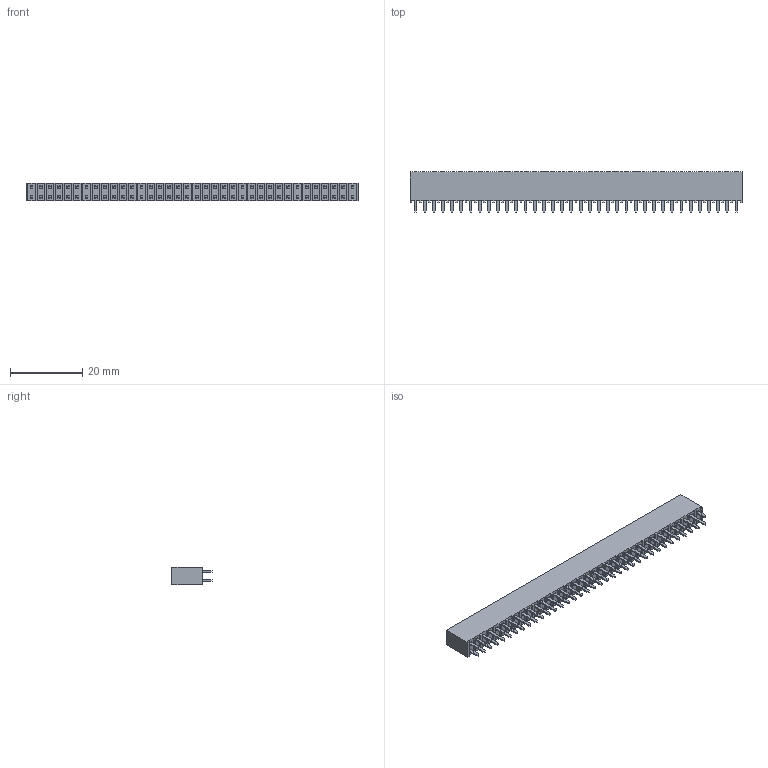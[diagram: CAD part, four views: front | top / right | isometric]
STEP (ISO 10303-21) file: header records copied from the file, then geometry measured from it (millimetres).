
FILE_DESCRIPTION(/* description */ ('STEP AP214'),/* implementation_level */ '2;1');
FILE_NAME(/* name */ 'SSW-136-21-F-D',/* time_stamp */ '2025-01-24T02:11:03+01:00',/* author */ ('License CC BY-ND 4.0'),/* organization */ ('CADENAS'),/* preprocessor_version */ 'ST-DEVELOPER v19.3',/* originating_system */ 'PARTsolutions',/* authorisation */ ' ');
FILE_SCHEMA (('AUTOMOTIVE_DESIGN {1 0 10303 214 3 1 1}'));
Length unit declared in the file: inch
Products named in the file (3): SSW-136-21-F-D; T1SSW-136-21-F-D; P2SSW-136-21-F-D
Assembly tree (2 placements, depth 2):
  SSW-136-21-F-D
    T1SSW-136-21-F-D
    P2SSW-136-21-F-D
Bounding box: 91.95 x 11.15 x 4.95 mm (x, y, z)
Volume: 3454.9 mm3; surface area: 5671.8 mm2
Topology: 2 solids, 2 shells, 948 faces, 2616 edges, 1744 vertices
Faces by surface type: plane 948
Entity records: 29906 total; most frequent: CARTESIAN_POINT 5311, ORIENTED_EDGE 5232, DIRECTION 4518, EDGE_CURVE 2616, LINE 2616, VECTOR 2616, VERTEX_POINT 1744, EDGE_LOOP 1164
